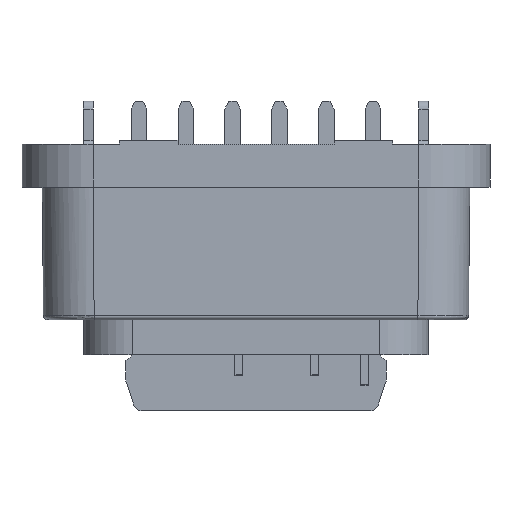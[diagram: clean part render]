
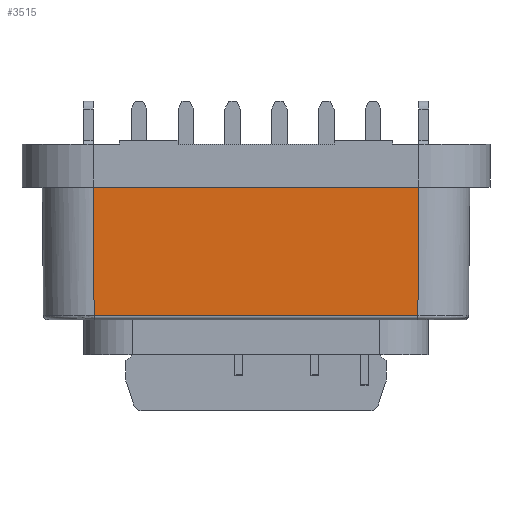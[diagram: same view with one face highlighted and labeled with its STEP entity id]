
A CAD part, front view. The second image highlights one B-rep face of the part: STEP entity #3515.
In plain terms, the highlighted planar face has unit normal (0, -1, -0.009).
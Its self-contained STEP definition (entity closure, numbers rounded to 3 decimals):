
#245=DIRECTION('',(-1.,0.,0.));
#246=VECTOR('',#245,8.359);
#247=CARTESIAN_POINT('',(4.756,-1.609,13.91));
#248=LINE('',#247,#246);
#517=CARTESIAN_POINT('',(-3.602,-1.609,13.91));
#529=DIRECTION('',(1.,0.,0.));
#530=VECTOR('',#529,8.301);
#531=CARTESIAN_POINT('',(-3.573,-1.58,10.609));
#532=LINE('',#531,#530);
#533=DIRECTION('',(-0.009,-0.009,1.));
#534=VECTOR('',#533,3.301);
#535=CARTESIAN_POINT('',(-3.573,-1.58,10.609));
#536=LINE('',#535,#534);
#537=DIRECTION('',(-0.009,0.009,-1.));
#538=VECTOR('',#537,3.301);
#539=CARTESIAN_POINT('',(4.756,-1.609,13.91));
#540=LINE('',#539,#538);
#2209=CARTESIAN_POINT('',(4.727,-1.58,10.609));
#2210=VERTEX_POINT('',#2209);
#2211=CARTESIAN_POINT('',(-3.573,-1.58,
10.609));
#2212=VERTEX_POINT('',#2211);
#2215=VERTEX_POINT('',#517);
#2226=CARTESIAN_POINT('',(4.756,-1.609,13.91));
#2227=VERTEX_POINT('',#2226);
#3503=CARTESIAN_POINT('',(0.577,-1.589,11.71));
#3504=DIRECTION('',(0.,-1.,-0.009));
#3505=DIRECTION('',(0.,-0.009,1.));
#3506=AXIS2_PLACEMENT_3D('',#3503,#3504,#3505);
#3507=PLANE('',#3506);
#3508=ORIENTED_EDGE('',*,*,#3496,.F.);
#3509=ORIENTED_EDGE('',*,*,#3471,.T.);
#3510=ORIENTED_EDGE('',*,*,#3129,.F.);
#3512=ORIENTED_EDGE('',*,*,#3511,.T.);
#3513=EDGE_LOOP('',(#3508,#3509,#3510,#3512));
#3514=FACE_OUTER_BOUND('',#3513,.F.);
#3515=ADVANCED_FACE('',(#3514),#3507,.T.);
#3129=EDGE_CURVE('',#2227,#2215,#248,.T.);
#3471=EDGE_CURVE('',#2212,#2215,#536,.T.);
#3496=EDGE_CURVE('',#2212,#2210,#532,.T.);
#3511=EDGE_CURVE('',#2227,#2210,#540,.T.);
